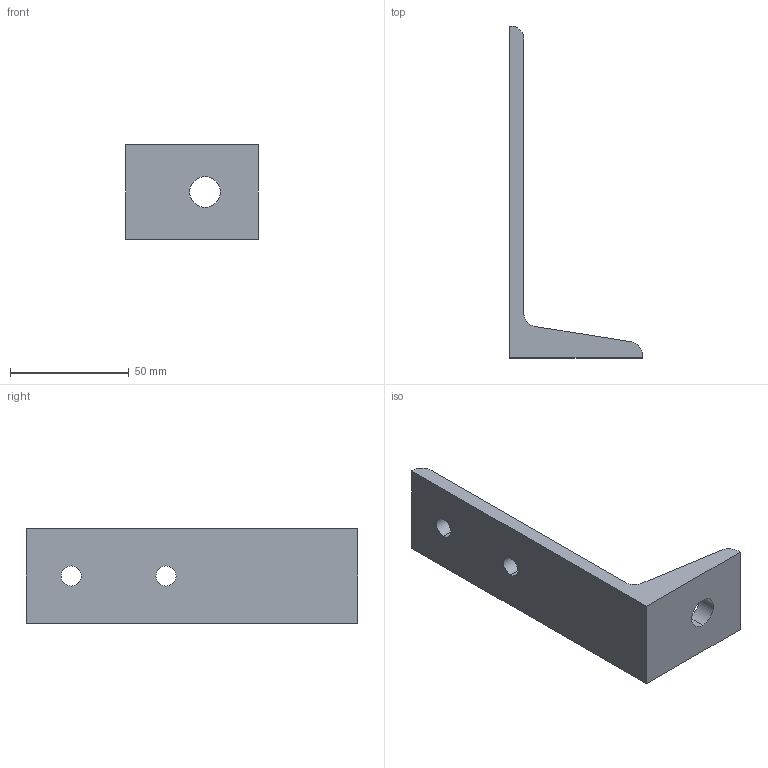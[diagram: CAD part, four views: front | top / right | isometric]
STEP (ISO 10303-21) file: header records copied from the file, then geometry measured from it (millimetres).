
FILE_DESCRIPTION (( 'STEP AP203' ), '1' );
FILE_NAME ('4040華褐蟀諉璃.STEP', '2018-09-13T12:39:35', ( 'China' ), ( 'Home' ), 'SwSTEP 2.0', 'SolidWorks 2013', '' );
FILE_SCHEMA (( 'CONFIG_CONTROL_DESIGN' ));
Length unit declared in the file: millimetre
Products named in the file (1): 4040華褐蟀諉璃
Bounding box: 56 x 140 x 40 mm (x, y, z)
Volume: 50704.7 mm3; surface area: 18120.9 mm2
Topology: 1 solids, 1 shells, 21 faces, 54 edges, 36 vertices
Faces by surface type: cylinder 12, plane 9
Entity records: 738 total; most frequent: CARTESIAN_POINT 121, DIRECTION 116, ORIENTED_EDGE 108, EDGE_CURVE 54, AXIS2_PLACEMENT_3D 43, VERTEX_POINT 36, VECTOR 30, LINE 30
